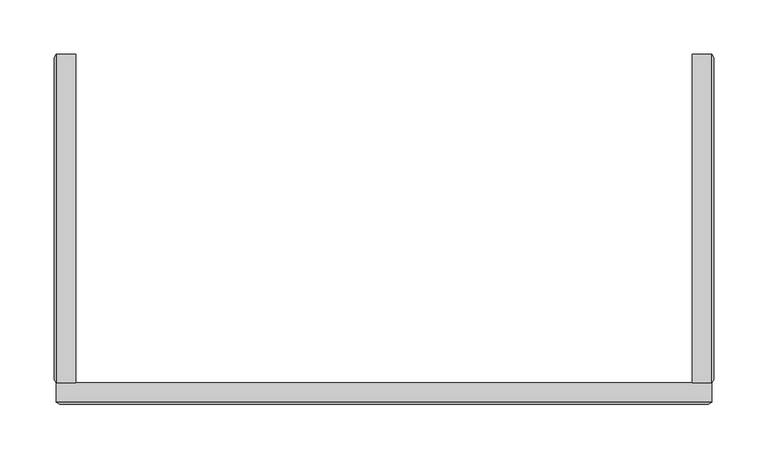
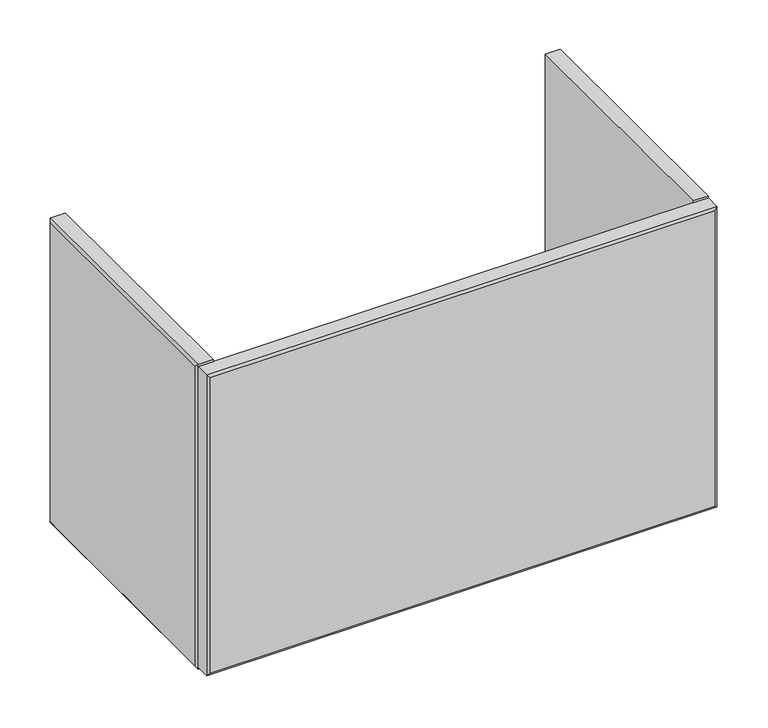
"""IFC4 building model written with IfcOpenShell, lengths in millimetres: furniture geometry."""

from ifc_helpers import new_model, si_unit, origin, place, context, project, spatial, faceted_brep, source, transform, mapped, element, save


def furniture_71b0f415(model_context):
    return source(origin(), model_context, "Body", "Brep", [
        faceted_brep([(-282.888965, -324.2665622, 506.11532), (-265.1648424, -324.2665622, 506.11532), (-265.1648424, -324.2665622, 887.11532), (-282.888965, -324.2665622, 887.11532), (-282.888965, -21.75256, 887.11532), (-265.1648424, -21.75256, 887.11532), (-265.1648424, -21.75256, 506.11532), (-282.888965, -21.75256, 506.11532), (-284.722842, -24.9275601, 883.9345502), (-284.722842, -321.0915561, 883.9345502), (-284.722842, -24.9275601, 509.2960899), (-284.722842, -321.0915561, 509.2960899)], [[[0, 1, 2, 3]], [[4, 5, 6, 7]], [[3, 4, 8, 9]], [[9, 8, 10, 11]], [[1, 0, 7, 6]], [[2, 1, 6, 5]], [[3, 2, 5, 4]], [[7, 0, 11, 10]], [[4, 7, 10, 8]], [[0, 3, 9, 11]]]),
        faceted_brep([(302.6369231, -324.2665622, 506.11532), (320.3643748, -324.2665622, 506.11532), (320.3643748, -324.2665622, 887.11532), (302.6369231, -324.2665622, 887.11532), (302.6369231, -21.75256, 506.11532), (302.6369231, -21.75256, 887.11532), (320.3643748, -21.75256, 887.11532), (320.3643748, -21.75256, 506.11532), (322.1982518, -321.0915561, 509.2960899), (322.1982518, -24.9275601, 509.2960899), (322.1982518, -24.9275601, 883.9345502), (322.1982518, -321.0915561, 883.9345502)], [[[0, 1, 2, 3]], [[4, 5, 6, 7]], [[8, 9, 10, 11]], [[6, 2, 11, 10]], [[3, 2, 6, 5]], [[0, 3, 5, 4]], [[1, 0, 4, 7]], [[1, 7, 9, 8]], [[2, 1, 8, 11]], [[7, 6, 10, 9]]]),
        faceted_brep([(-282.888965, -341.9906802, 884.7658086), (-282.888965, -324.2665622, 884.7658086), (-282.888965, -324.2665622, 508.4648314), (-282.888965, -341.9906802, 508.4648314), (320.3643748, -341.9906802, 508.4648314), (320.3643748, -324.2665622, 508.4648314), (320.3643748, -324.2665622, 884.7658086), (320.3643748, -341.9906802, 884.7658086), (-279.7139635, -343.8166225, 881.5908207), (317.1893733, -343.8166225, 881.5908207), (317.1893733, -343.8166225, 511.6398193), (-279.7139635, -343.8166225, 511.6398193)], [[[0, 1, 2, 3]], [[4, 5, 6, 7]], [[7, 0, 8, 9]], [[1, 0, 7, 6]], [[2, 1, 6, 5]], [[3, 2, 5, 4]], [[3, 4, 10, 11]], [[9, 8, 11, 10]], [[4, 7, 9, 10]], [[0, 3, 11, 8]]]),
    ])


if __name__ == "__main__":
    model = new_model("IFC4")
    model_context = context("Model", 3, world=origin())
    ifc_project = project(units=[si_unit("LENGTHUNIT", "METRE", prefix="MILLI")], contexts=[model_context])
    site = spatial("IfcSite", under=ifc_project)
    building = spatial("IfcBuilding", under=site)
    placement = place(None, origin())
    furniture_shape = furniture_71b0f415(model_context)
    element("IfcFurniture", 1, ObjectType="HermanMiller_Compass_TW232_SinkEnclosure : 13\"D x 24\"W Durawrap", at=placement, inside=building, context=model_context, shape_type="MappedRepresentation", body=[
        mapped(furniture_shape, transform((0.0, 0.0, 0.0), x_axis=(1.0, 0.0, 0.0), y_axis=(0.0, 1.0, 0.0), z_axis=(0.0, 0.0, 1.0))),
    ])
    save(model, "model.ifc")
